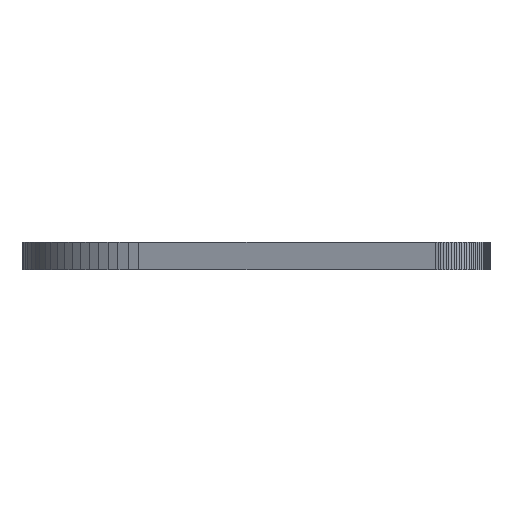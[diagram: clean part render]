
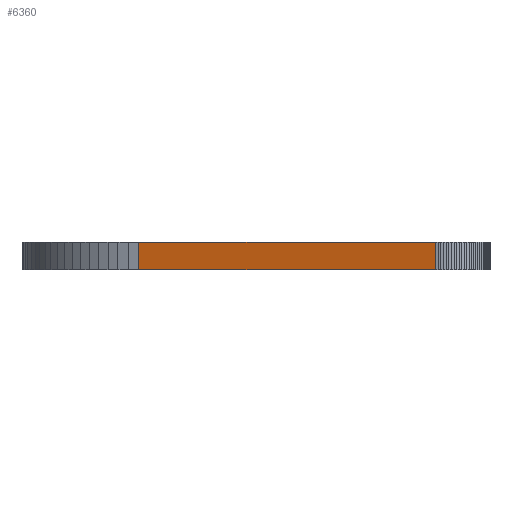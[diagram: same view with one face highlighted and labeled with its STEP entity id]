
A CAD part, front view. The second image highlights one B-rep face of the part: STEP entity #6360.
In plain terms, the highlighted planar face has unit normal (-0.307, -0.952, 0).
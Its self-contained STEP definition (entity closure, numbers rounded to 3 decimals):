
#72 = PLANE('',#73);
#73 = AXIS2_PLACEMENT_3D('',#74,#75,#76);
#74 = CARTESIAN_POINT('',(5.683,-0.87,-46.2));
#75 = DIRECTION('',(0.,0.,1.));
#76 = DIRECTION('',(1.,0.,-0.));
#126 = PLANE('',#127);
#127 = AXIS2_PLACEMENT_3D('',#128,#129,#130);
#128 = CARTESIAN_POINT('',(5.683,-0.87,-48.2));
#129 = DIRECTION('',(0.,0.,1.));
#130 = DIRECTION('',(1.,0.,-0.));
#739 = VERTEX_POINT('',#740);
#740 = CARTESIAN_POINT('',(-4.018,-11.837,-48.2));
#754 = PLANE('',#755);
#755 = AXIS2_PLACEMENT_3D('',#756,#757,#758);
#756 = CARTESIAN_POINT('',(-4.784,-11.548,-48.2));
#757 = DIRECTION('',(0.352,0.936,-0.));
#758 = DIRECTION('',(0.936,-0.352,0.));
#766 = EDGE_CURVE('',#739,#767,#769,.T.);
#767 = VERTEX_POINT('',#768);
#768 = CARTESIAN_POINT('',(17.536,-18.791,-48.2));
#769 = SURFACE_CURVE('',#770,(#774,#781),.PCURVE_S1.);
#770 = LINE('',#771,#772);
#771 = CARTESIAN_POINT('',(-4.018,-11.837,-48.2));
#772 = VECTOR('',#773,1.);
#773 = DIRECTION('',(0.952,-0.307,0.));
#774 = PCURVE('',#126,#775);
#775 = DEFINITIONAL_REPRESENTATION('',(#776),#780);
#776 = LINE('',#777,#778);
#777 = CARTESIAN_POINT('',(-9.701,-10.966));
#778 = VECTOR('',#779,1.);
#779 = DIRECTION('',(0.952,-0.307));
#780 = ( GEOMETRIC_REPRESENTATION_CONTEXT(2) 
PARAMETRIC_REPRESENTATION_CONTEXT() REPRESENTATION_CONTEXT('2D SPACE',''
  ) );
#781 = PCURVE('',#782,#787);
#782 = PLANE('',#783);
#783 = AXIS2_PLACEMENT_3D('',#784,#785,#786);
#784 = CARTESIAN_POINT('',(-4.018,-11.837,-48.2));
#785 = DIRECTION('',(0.307,0.952,-0.));
#786 = DIRECTION('',(0.952,-0.307,0.));
#787 = DEFINITIONAL_REPRESENTATION('',(#788),#792);
#788 = LINE('',#789,#790);
#789 = CARTESIAN_POINT('',(0.,0.));
#790 = VECTOR('',#791,1.);
#791 = DIRECTION('',(1.,0.));
#792 = ( GEOMETRIC_REPRESENTATION_CONTEXT(2) 
PARAMETRIC_REPRESENTATION_CONTEXT() REPRESENTATION_CONTEXT('2D SPACE',''
  ) );
#810 = PLANE('',#811);
#811 = AXIS2_PLACEMENT_3D('',#812,#813,#814);
#812 = CARTESIAN_POINT('',(17.536,-18.791,-48.2));
#813 = DIRECTION('',(0.29,0.957,-0.));
#814 = DIRECTION('',(0.957,-0.29,0.));
#3467 = VERTEX_POINT('',#3468);
#3468 = CARTESIAN_POINT('',(-4.018,-11.837,-46.2));
#3489 = EDGE_CURVE('',#3467,#3490,#3492,.T.);
#3490 = VERTEX_POINT('',#3491);
#3491 = CARTESIAN_POINT('',(17.536,-18.791,-46.2));
#3492 = SURFACE_CURVE('',#3493,(#3497,#3504),.PCURVE_S1.);
#3493 = LINE('',#3494,#3495);
#3494 = CARTESIAN_POINT('',(-4.018,-11.837,-46.2));
#3495 = VECTOR('',#3496,1.);
#3496 = DIRECTION('',(0.952,-0.307,0.));
#3497 = PCURVE('',#72,#3498);
#3498 = DEFINITIONAL_REPRESENTATION('',(#3499),#3503);
#3499 = LINE('',#3500,#3501);
#3500 = CARTESIAN_POINT('',(-9.701,-10.966));
#3501 = VECTOR('',#3502,1.);
#3502 = DIRECTION('',(0.952,-0.307));
#3503 = ( GEOMETRIC_REPRESENTATION_CONTEXT(2) 
PARAMETRIC_REPRESENTATION_CONTEXT() REPRESENTATION_CONTEXT('2D SPACE',''
  ) );
#3504 = PCURVE('',#782,#3505);
#3505 = DEFINITIONAL_REPRESENTATION('',(#3506),#3510);
#3506 = LINE('',#3507,#3508);
#3507 = CARTESIAN_POINT('',(0.,-2.));
#3508 = VECTOR('',#3509,1.);
#3509 = DIRECTION('',(1.,0.));
#3510 = ( GEOMETRIC_REPRESENTATION_CONTEXT(2) 
PARAMETRIC_REPRESENTATION_CONTEXT() REPRESENTATION_CONTEXT('2D SPACE',''
  ) );
#6312 = EDGE_CURVE('',#739,#3467,#6313,.T.);
#6313 = SURFACE_CURVE('',#6314,(#6318,#6325),.PCURVE_S1.);
#6314 = LINE('',#6315,#6316);
#6315 = CARTESIAN_POINT('',(-4.018,-11.837,-48.2));
#6316 = VECTOR('',#6317,1.);
#6317 = DIRECTION('',(0.,0.,1.));
#6318 = PCURVE('',#754,#6319);
#6319 = DEFINITIONAL_REPRESENTATION('',(#6320),#6324);
#6320 = LINE('',#6321,#6322);
#6321 = CARTESIAN_POINT('',(0.818,0.));
#6322 = VECTOR('',#6323,1.);
#6323 = DIRECTION('',(0.,-1.));
#6324 = ( GEOMETRIC_REPRESENTATION_CONTEXT(2) 
PARAMETRIC_REPRESENTATION_CONTEXT() REPRESENTATION_CONTEXT('2D SPACE',''
  ) );
#6325 = PCURVE('',#782,#6326);
#6326 = DEFINITIONAL_REPRESENTATION('',(#6327),#6331);
#6327 = LINE('',#6328,#6329);
#6328 = CARTESIAN_POINT('',(0.,0.));
#6329 = VECTOR('',#6330,1.);
#6330 = DIRECTION('',(0.,-1.));
#6331 = ( GEOMETRIC_REPRESENTATION_CONTEXT(2) 
PARAMETRIC_REPRESENTATION_CONTEXT() REPRESENTATION_CONTEXT('2D SPACE',''
  ) );
#6360 = ADVANCED_FACE('',(#6361),#782,.F.);
#6361 = FACE_BOUND('',#6362,.F.);
#6362 = EDGE_LOOP('',(#6363,#6364,#6365,#6386));
#6363 = ORIENTED_EDGE('',*,*,#6312,.T.);
#6364 = ORIENTED_EDGE('',*,*,#3489,.T.);
#6365 = ORIENTED_EDGE('',*,*,#6366,.F.);
#6366 = EDGE_CURVE('',#767,#3490,#6367,.T.);
#6367 = SURFACE_CURVE('',#6368,(#6372,#6379),.PCURVE_S1.);
#6368 = LINE('',#6369,#6370);
#6369 = CARTESIAN_POINT('',(17.536,-18.791,-48.2));
#6370 = VECTOR('',#6371,1.);
#6371 = DIRECTION('',(0.,0.,1.));
#6372 = PCURVE('',#782,#6373);
#6373 = DEFINITIONAL_REPRESENTATION('',(#6374),#6378);
#6374 = LINE('',#6375,#6376);
#6375 = CARTESIAN_POINT('',(22.648,0.));
#6376 = VECTOR('',#6377,1.);
#6377 = DIRECTION('',(0.,-1.));
#6378 = ( GEOMETRIC_REPRESENTATION_CONTEXT(2) 
PARAMETRIC_REPRESENTATION_CONTEXT() REPRESENTATION_CONTEXT('2D SPACE',''
  ) );
#6379 = PCURVE('',#810,#6380);
#6380 = DEFINITIONAL_REPRESENTATION('',(#6381),#6385);
#6381 = LINE('',#6382,#6383);
#6382 = CARTESIAN_POINT('',(0.,0.));
#6383 = VECTOR('',#6384,1.);
#6384 = DIRECTION('',(0.,-1.));
#6385 = ( GEOMETRIC_REPRESENTATION_CONTEXT(2) 
PARAMETRIC_REPRESENTATION_CONTEXT() REPRESENTATION_CONTEXT('2D SPACE',''
  ) );
#6386 = ORIENTED_EDGE('',*,*,#766,.F.);
